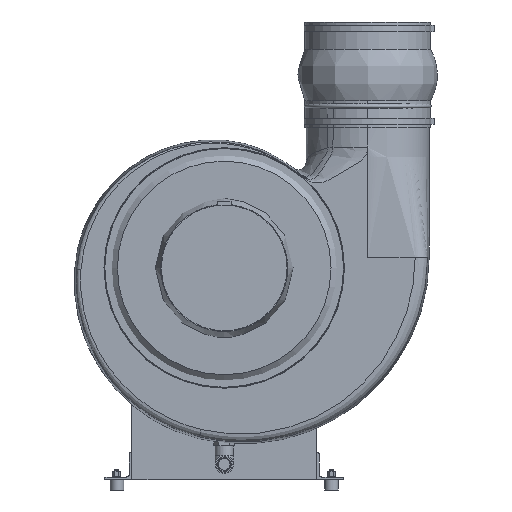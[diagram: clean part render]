
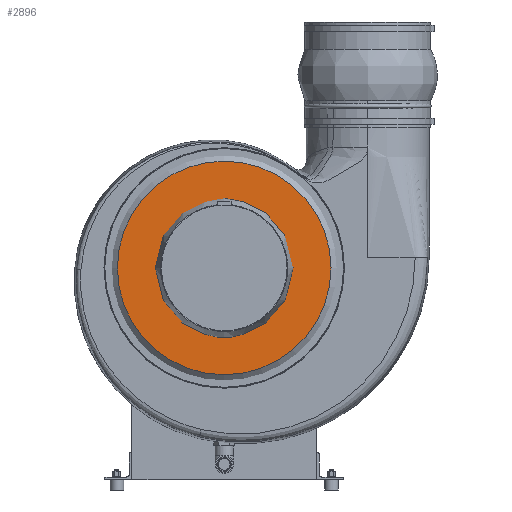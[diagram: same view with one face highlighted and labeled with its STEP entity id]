
A CAD part, front view. The second image highlights one B-rep face of the part: STEP entity #2896.
In plain terms, the highlighted planar face has unit normal (0, -1, 0) as drawn and (-1, 0, 0) by its records, which use the part's own axes.
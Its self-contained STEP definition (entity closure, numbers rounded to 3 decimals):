
#2896 = ADVANCED_FACE( '', ( #6335, #6336 ), #6337, .T. );
#6335 = FACE_BOUND( '', #20875, .T. );
#6336 = FACE_OUTER_BOUND( '', #20876, .T. );
#6337 = PLANE( '', #20877 );
#20875 = EDGE_LOOP( '', ( #38021 ) );
#20876 = EDGE_LOOP( '', ( #38022 ) );
#20877 = AXIS2_PLACEMENT_3D( '', #38023, #38024, #38025 );
#38021 = ORIENTED_EDGE( '', *, *, #46827, .F. );
#38022 = ORIENTED_EDGE( '', *, *, #46828, .T. );
#38023 = CARTESIAN_POINT( '', ( 40., 0., 0. ) );
#38024 = DIRECTION( '', ( -1., 0., 0. ) );
#38025 = DIRECTION( '', ( 0., 0., 1. ) );
#46827 = EDGE_CURVE( '', #52116, #52116, #52117, .T. );
#46828 = EDGE_CURVE( '', #52118, #52118, #52119, .T. );
#52116 = VERTEX_POINT( '', #66295 );
#52117 = CIRCLE( '', #66296, 90. );
#52118 = VERTEX_POINT( '', #66297 );
#52119 = CIRCLE( '', #66298, 156.338 );
#66295 = CARTESIAN_POINT( '', ( 40., 0., 90. ) );
#66296 = AXIS2_PLACEMENT_3D( '', #74546, #74547, #74548 );
#66297 = CARTESIAN_POINT( '', ( 40., 0., 156.338 ) );
#66298 = AXIS2_PLACEMENT_3D( '', #74549, #74550, #74551 );
#74546 = CARTESIAN_POINT( '', ( 40., 0., 0. ) );
#74547 = DIRECTION( '', ( -1., 0., 0. ) );
#74548 = DIRECTION( '', ( 0., 0., 1. ) );
#74549 = CARTESIAN_POINT( '', ( 40., 0., 0. ) );
#74550 = DIRECTION( '', ( -1., 0., 0. ) );
#74551 = DIRECTION( '', ( 0., 0., 1. ) );
